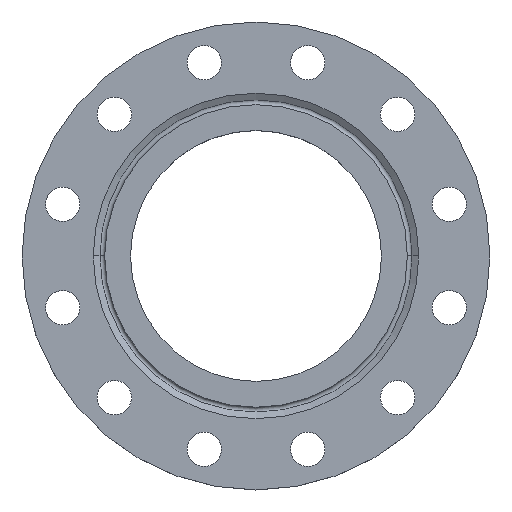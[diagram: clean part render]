
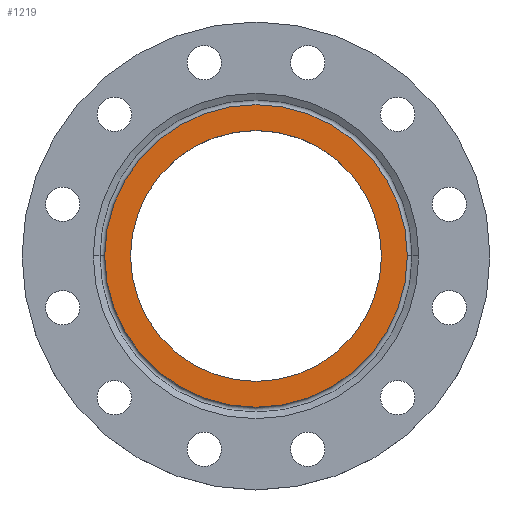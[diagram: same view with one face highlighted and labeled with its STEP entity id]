
A CAD part, top view. The second image highlights one B-rep face of the part: STEP entity #1219.
In plain terms, the highlighted planar face has unit normal (0, 0, 1).
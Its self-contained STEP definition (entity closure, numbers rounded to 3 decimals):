
#14 = DIRECTION ( 'NONE',  ( 1., 0., 0. ) ) ;
#15 = DIRECTION ( 'NONE',  ( 0., 0., 1. ) ) ;
#17 = CARTESIAN_POINT ( 'NONE',  ( 0., 0., 0. ) ) ;
#19 = DIRECTION ( 'NONE',  ( 1., 0., 0. ) ) ;
#22 = DIRECTION ( 'NONE',  ( 0., 0., 1. ) ) ;
#25 = CARTESIAN_POINT ( 'NONE',  ( 0., 0., 0. ) ) ;
#26 = PLANE ( 'NONE',  #1148 ) ;
#29 = FACE_OUTER_BOUND ( 'NONE', #1377, .T. ) ;
#30 = FACE_BOUND ( 'NONE', #1385, .T. ) ;
#75 = DIRECTION ( 'NONE',  ( -1., 0., 0. ) ) ;
#108 = DIRECTION ( 'NONE',  ( 0., 0., -1. ) ) ;
#109 = CARTESIAN_POINT ( 'NONE',  ( 0., 0., 0. ) ) ;
#329 = AXIS2_PLACEMENT_3D ( 'NONE', #532, #531, #530 ) ;
#343 = CARTESIAN_POINT ( 'NONE',  ( -145.5, 0., 0. ) ) ;
#459 = EDGE_CURVE ( 'NONE', #1246, #1243, #750, .T. ) ;
#470 = EDGE_CURVE ( 'NONE', #1267, #836, #807, .T. ) ;
#530 = DIRECTION ( 'NONE',  ( -1., 0., 0. ) ) ;
#531 = DIRECTION ( 'NONE',  ( 0., 0., -1. ) ) ;
#532 = CARTESIAN_POINT ( 'NONE',  ( 0., 0., 0. ) ) ;
#533 = DIRECTION ( 'NONE',  ( 1., 0., 0. ) ) ;
#534 = DIRECTION ( 'NONE',  ( 0., 0., 1. ) ) ;
#535 = CARTESIAN_POINT ( 'NONE',  ( 0., 0., 0. ) ) ;
#750 = CIRCLE ( 'NONE', #1188, 120.67 ) ;
#807 = CIRCLE ( 'NONE', #329, 145.5 ) ;
#836 = VERTEX_POINT ( 'NONE', #343 ) ;
#953 = CARTESIAN_POINT ( 'NONE',  ( 145.5, 0., 0. ) ) ;
#979 = CARTESIAN_POINT ( 'NONE',  ( 120.67, 0., 0. ) ) ;
#983 = CARTESIAN_POINT ( 'NONE',  ( -120.67, 0., 0. ) ) ;
#1043 = EDGE_CURVE ( 'NONE', #836, #1267, #1383, .T. ) ;
#1112 = ORIENTED_EDGE ( 'NONE', *, *, #459, .F. ) ;
#1114 = ORIENTED_EDGE ( 'NONE', *, *, #1220, .F. ) ;
#1115 = ORIENTED_EDGE ( 'NONE', *, *, #1043, .F. ) ;
#1116 = ORIENTED_EDGE ( 'NONE', *, *, #470, .F. ) ;
#1148 = AXIS2_PLACEMENT_3D ( 'NONE', #25, #22, #19 ) ;
#1188 = AXIS2_PLACEMENT_3D ( 'NONE', #535, #534, #533 ) ;
#1219 = ADVANCED_FACE ( 'NONE', ( #30, #29 ), #26, .T. ) ;
#1220 = EDGE_CURVE ( 'NONE', #1243, #1246, #1240, .T. ) ;
#1240 = CIRCLE ( 'NONE', #1344, 120.67 ) ;
#1243 = VERTEX_POINT ( 'NONE', #983 ) ;
#1246 = VERTEX_POINT ( 'NONE', #979 ) ;
#1267 = VERTEX_POINT ( 'NONE', #953 ) ;
#1336 = AXIS2_PLACEMENT_3D ( 'NONE', #109, #108, #75 ) ;
#1344 = AXIS2_PLACEMENT_3D ( 'NONE', #17, #15, #14 ) ;
#1377 = EDGE_LOOP ( 'NONE', ( #1115, #1116 ) ) ;
#1383 = CIRCLE ( 'NONE', #1336, 145.5 ) ;
#1385 = EDGE_LOOP ( 'NONE', ( #1112, #1114 ) ) ;
